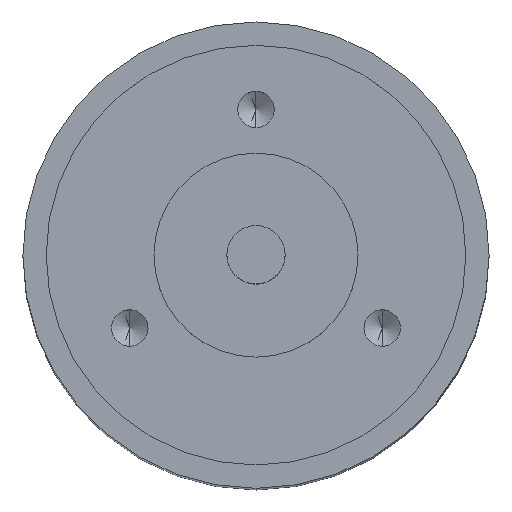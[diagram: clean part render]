
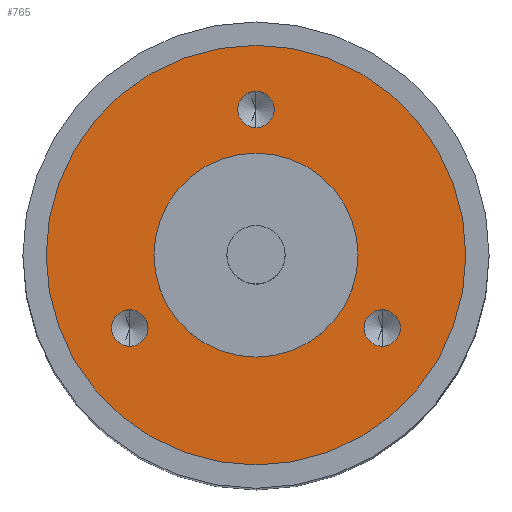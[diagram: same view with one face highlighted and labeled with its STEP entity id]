
A CAD part, top view. The second image highlights one B-rep face of the part: STEP entity #765.
In plain terms, the highlighted planar face has unit normal (0, 0, 1).
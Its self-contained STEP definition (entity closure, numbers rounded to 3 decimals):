
#15 = EDGE_CURVE ( 'NONE', #219, #154, #409, .T. ) ;
#22 = ORIENTED_EDGE ( 'NONE', *, *, #777, .T. ) ;
#28 = CIRCLE ( 'NONE', #135, 1.25 ) ;
#35 = VERTEX_POINT ( 'NONE', #371 ) ;
#37 = ORIENTED_EDGE ( 'NONE', *, *, #788, .F. ) ;
#38 = CARTESIAN_POINT ( 'NONE',  ( -8.66, -5., 0. ) ) ;
#39 = CARTESIAN_POINT ( 'NONE',  ( 0., 10., 0. ) ) ;
#42 = CARTESIAN_POINT ( 'NONE',  ( 0., -7., 0. ) ) ;
#45 = FACE_BOUND ( 'NONE', #372, .T. ) ;
#47 = DIRECTION ( 'NONE',  ( 0., -1., 0. ) ) ;
#48 = DIRECTION ( 'NONE',  ( 0., 0., 1. ) ) ;
#50 = CARTESIAN_POINT ( 'NONE',  ( 0., 0., 0. ) ) ;
#54 = DIRECTION ( 'NONE',  ( 0., 1., 0. ) ) ;
#66 = DIRECTION ( 'NONE',  ( 0., 0., -1. ) ) ;
#77 = EDGE_LOOP ( 'NONE', ( #485, #37 ) ) ;
#78 = DIRECTION ( 'NONE',  ( 0., -1., 0. ) ) ;
#81 = EDGE_CURVE ( 'NONE', #35, #182, #414, .T. ) ;
#85 = AXIS2_PLACEMENT_3D ( 'NONE', #493, #370, #628 ) ;
#107 = CARTESIAN_POINT ( 'NONE',  ( 0., 7., 0. ) ) ;
#135 = AXIS2_PLACEMENT_3D ( 'NONE', #38, #48, #302 ) ;
#154 = VERTEX_POINT ( 'NONE', #433 ) ;
#158 = CARTESIAN_POINT ( 'NONE',  ( 0., 0., 0. ) ) ;
#182 = VERTEX_POINT ( 'NONE', #279 ) ;
#188 = CIRCLE ( 'NONE', #381, 1.25 ) ;
#189 = AXIS2_PLACEMENT_3D ( 'NONE', #50, #66, #386 ) ;
#196 = VERTEX_POINT ( 'NONE', #532 ) ;
#219 = VERTEX_POINT ( 'NONE', #467 ) ;
#223 = FACE_BOUND ( 'NONE', #426, .T. ) ;
#229 = AXIS2_PLACEMENT_3D ( 'NONE', #509, #290, #300 ) ;
#231 = DIRECTION ( 'NONE',  ( 0., 0., 1. ) ) ;
#244 = CIRCLE ( 'NONE', #229, 1.25 ) ;
#271 = EDGE_LOOP ( 'NONE', ( #277, #789 ) ) ;
#277 = ORIENTED_EDGE ( 'NONE', *, *, #15, .F. ) ;
#279 = CARTESIAN_POINT ( 'NONE',  ( 0., -14.4, 0. ) ) ;
#285 = AXIS2_PLACEMENT_3D ( 'NONE', #690, #231, #305 ) ;
#290 = DIRECTION ( 'NONE',  ( 0., 0., 1. ) ) ;
#300 = DIRECTION ( 'NONE',  ( 0., -1., 0. ) ) ;
#302 = DIRECTION ( 'NONE',  ( 0., -1., 0. ) ) ;
#304 = EDGE_CURVE ( 'NONE', #672, #636, #428, .T. ) ;
#305 = DIRECTION ( 'NONE',  ( 0., -1., 0. ) ) ;
#313 = CIRCLE ( 'NONE', #285, 1.25 ) ;
#348 = DIRECTION ( 'NONE',  ( 0., 1., 0. ) ) ;
#350 = AXIS2_PLACEMENT_3D ( 'NONE', #158, #675, #348 ) ;
#365 = EDGE_CURVE ( 'NONE', #660, #396, #188, .T. ) ;
#367 = AXIS2_PLACEMENT_3D ( 'NONE', #583, #781, #78 ) ;
#369 = DIRECTION ( 'NONE',  ( 0., -1., 0. ) ) ;
#370 = DIRECTION ( 'NONE',  ( 0., 0., -1. ) ) ;
#371 = CARTESIAN_POINT ( 'NONE',  ( 0., 14.4, 0. ) ) ;
#372 = EDGE_LOOP ( 'NONE', ( #738, #614 ) ) ;
#381 = AXIS2_PLACEMENT_3D ( 'NONE', #39, #692, #369 ) ;
#383 = ORIENTED_EDGE ( 'NONE', *, *, #304, .T. ) ;
#386 = DIRECTION ( 'NONE',  ( 0., 1., 0. ) ) ;
#396 = VERTEX_POINT ( 'NONE', #578 ) ;
#409 = CIRCLE ( 'NONE', #511, 1.25 ) ;
#414 = CIRCLE ( 'NONE', #771, 14.4 ) ;
#421 = ORIENTED_EDGE ( 'NONE', *, *, #767, .F. ) ;
#426 = EDGE_LOOP ( 'NONE', ( #22, #383 ) ) ;
#428 = CIRCLE ( 'NONE', #350, 7. ) ;
#433 = CARTESIAN_POINT ( 'NONE',  ( 8.66, -3.75, 0. ) ) ;
#449 = CARTESIAN_POINT ( 'NONE',  ( 8.66, -5., 0. ) ) ;
#467 = CARTESIAN_POINT ( 'NONE',  ( 8.66, -6.25, 0. ) ) ;
#485 = ORIENTED_EDGE ( 'NONE', *, *, #81, .F. ) ;
#493 = CARTESIAN_POINT ( 'NONE',  ( 0., 0., 0. ) ) ;
#502 = CARTESIAN_POINT ( 'NONE',  ( 0., 0., 0. ) ) ;
#509 = CARTESIAN_POINT ( 'NONE',  ( 0., 10., 0. ) ) ;
#511 = AXIS2_PLACEMENT_3D ( 'NONE', #449, #821, #47 ) ;
#514 = EDGE_CURVE ( 'NONE', #196, #798, #580, .T. ) ;
#532 = CARTESIAN_POINT ( 'NONE',  ( -8.66, -6.25, 0. ) ) ;
#548 = AXIS2_PLACEMENT_3D ( 'NONE', #826, #687, #566 ) ;
#556 = CARTESIAN_POINT ( 'NONE',  ( 0., 8.75, 0. ) ) ;
#557 = FACE_BOUND ( 'NONE', #657, .T. ) ;
#560 = CIRCLE ( 'NONE', #189, 14.4 ) ;
#566 = DIRECTION ( 'NONE',  ( 0., -1., 0. ) ) ;
#567 = DIRECTION ( 'NONE',  ( 0., 0., -1. ) ) ;
#569 = FACE_BOUND ( 'NONE', #271, .T. ) ;
#578 = CARTESIAN_POINT ( 'NONE',  ( 0., 11.25, 0. ) ) ;
#580 = CIRCLE ( 'NONE', #367, 1.25 ) ;
#583 = CARTESIAN_POINT ( 'NONE',  ( -8.66, -5., 0. ) ) ;
#603 = EDGE_CURVE ( 'NONE', #798, #196, #28, .T. ) ;
#614 = ORIENTED_EDGE ( 'NONE', *, *, #603, .F. ) ;
#628 = DIRECTION ( 'NONE',  ( 0., 1., 0. ) ) ;
#635 = ORIENTED_EDGE ( 'NONE', *, *, #365, .F. ) ;
#636 = VERTEX_POINT ( 'NONE', #107 ) ;
#657 = EDGE_LOOP ( 'NONE', ( #635, #421 ) ) ;
#660 = VERTEX_POINT ( 'NONE', #556 ) ;
#672 = VERTEX_POINT ( 'NONE', #42 ) ;
#675 = DIRECTION ( 'NONE',  ( 0., 0., -1. ) ) ;
#687 = DIRECTION ( 'NONE',  ( 0., 0., 1. ) ) ;
#690 = CARTESIAN_POINT ( 'NONE',  ( 8.66, -5., 0. ) ) ;
#692 = DIRECTION ( 'NONE',  ( 0., 0., 1. ) ) ;
#726 = EDGE_CURVE ( 'NONE', #154, #219, #313, .T. ) ;
#738 = ORIENTED_EDGE ( 'NONE', *, *, #514, .F. ) ;
#746 = FACE_OUTER_BOUND ( 'NONE', #77, .T. ) ;
#765 = ADVANCED_FACE ( 'NONE', ( #45, #569, #557, #223, #746 ), #814, .T. ) ;
#767 = EDGE_CURVE ( 'NONE', #396, #660, #244, .T. ) ;
#771 = AXIS2_PLACEMENT_3D ( 'NONE', #502, #567, #54 ) ;
#777 = EDGE_CURVE ( 'NONE', #636, #672, #815, .T. ) ;
#781 = DIRECTION ( 'NONE',  ( 0., 0., 1. ) ) ;
#788 = EDGE_CURVE ( 'NONE', #182, #35, #560, .T. ) ;
#789 = ORIENTED_EDGE ( 'NONE', *, *, #726, .F. ) ;
#798 = VERTEX_POINT ( 'NONE', #836 ) ;
#814 = PLANE ( 'NONE',  #548 ) ;
#815 = CIRCLE ( 'NONE', #85, 7. ) ;
#821 = DIRECTION ( 'NONE',  ( 0., 0., 1. ) ) ;
#826 = CARTESIAN_POINT ( 'NONE',  ( 0., 7., 0. ) ) ;
#836 = CARTESIAN_POINT ( 'NONE',  ( -8.66, -3.75, 0. ) ) ;
